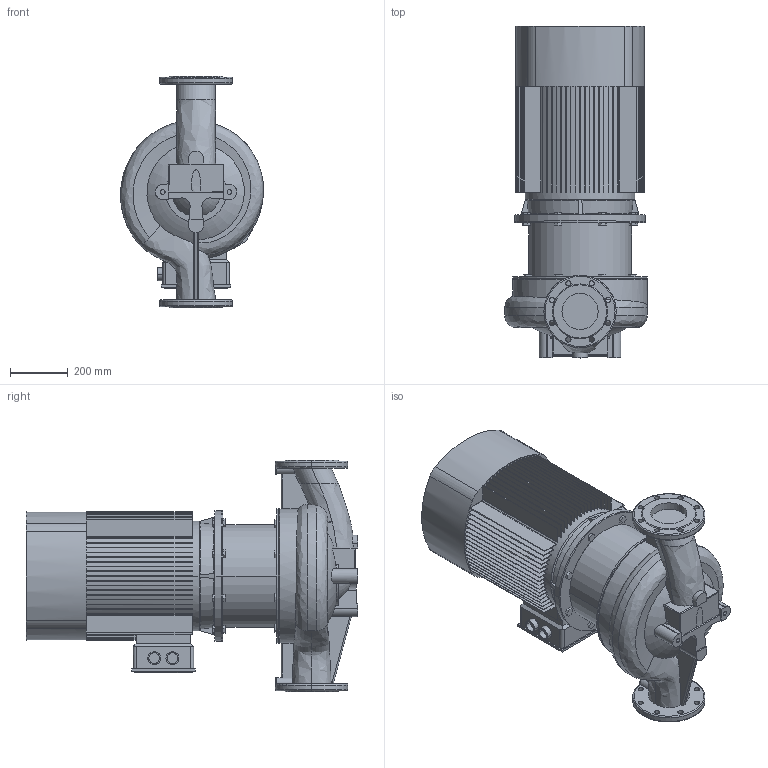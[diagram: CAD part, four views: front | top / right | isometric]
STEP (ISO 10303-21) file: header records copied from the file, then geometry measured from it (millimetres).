
FILE_DESCRIPTION (( 'STEP AP203' ), '1' );
FILE_NAME ('TD125-48G_4.STEP', '2022-05-02T19:19:30', ( '' ), ( '' ), 'SwSTEP 2.0', 'SolidWorks 2019', '' );
FILE_SCHEMA (( 'CONFIG_CONTROL_DESIGN' ));
Length unit declared in the file: millimetre
Products named in the file (4): Fon_125_TD125-48G_4; TD125-48G_4; Pr_ch 125_TD125-48G_4; ED_B5_YE2-225S-4 (37)
Assembly tree (3 placements, depth 2):
  TD125-48G_4
    Pr_ch 125_TD125-48G_4
    Fon_125_TD125-48G_4
    ED_B5_YE2-225S-4 (37)
Bounding box: 494.29 x 1147 x 800 mm (x, y, z)
Volume: 139218577.3 mm3; surface area: 5199346.5 mm2
Topology: 5 solids, 5 shells, 784 faces, 2154 edges, 1424 vertices
Faces by surface type: plane 550, cylinder 166, torus 27, bspline 22, cone 17, sphere 2
Entity records: 33477 total; most frequent: CARTESIAN_POINT 12753, ORIENTED_EDGE 4300, DIRECTION 4204, EDGE_CURVE 2150, AXIS2_PLACEMENT_3D 1425, VERTEX_POINT 1424, LINE 1354, VECTOR 1354
